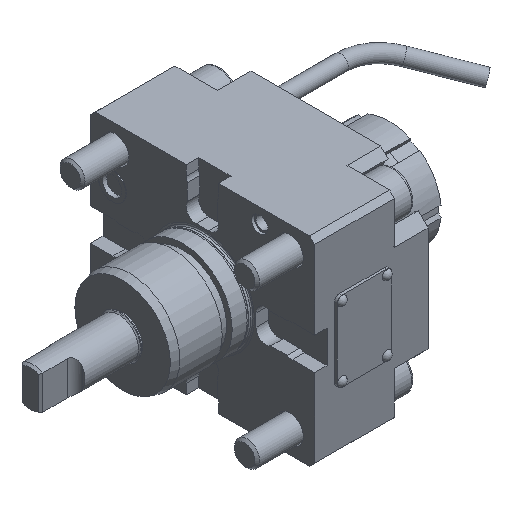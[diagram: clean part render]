
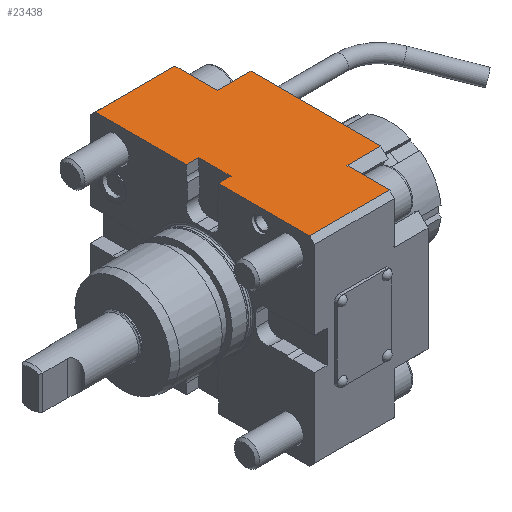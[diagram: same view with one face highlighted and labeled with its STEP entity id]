
A CAD part, isometric view. The second image highlights one B-rep face of the part: STEP entity #23438.
In plain terms, the highlighted planar face has unit normal (0, 0, 1).
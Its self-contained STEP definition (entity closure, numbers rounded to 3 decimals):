
#10072=VECTOR('',#16279,1.);
#10084=VECTOR('',#16307,1.);
#10085=VECTOR('',#16308,1.);
#10086=VECTOR('',#16309,1.);
#10087=VECTOR('',#16310,1.);
#10088=VECTOR('',#16311,1.);
#10089=VECTOR('',#16312,1.);
#10090=VECTOR('',#16313,1.);
#10091=VECTOR('',#16314,1.);
#10092=VECTOR('',#16315,1.);
#10093=VECTOR('',#16316,1.);
#10094=VECTOR('',#16317,1.);
#10546=LINE('',#20398,#10072);
#10558=LINE('',#20436,#10084);
#10559=LINE('',#20438,#10085);
#10560=LINE('',#20440,#10086);
#10561=LINE('',#20442,#10087);
#10562=LINE('',#20444,#10088);
#10563=LINE('',#20446,#10089);
#10564=LINE('',#20448,#10090);
#10565=LINE('',#20450,#10091);
#10566=LINE('',#20452,#10092);
#10567=LINE('',#20454,#10093);
#10568=LINE('',#20455,#10094);
#11452=ORIENTED_EDGE('',*,*,#14010,.F.);
#11453=ORIENTED_EDGE('',*,*,#13991,.F.);
#11454=ORIENTED_EDGE('',*,*,#14011,.T.);
#11455=ORIENTED_EDGE('',*,*,#14012,.F.);
#11456=ORIENTED_EDGE('',*,*,#14013,.T.);
#11457=ORIENTED_EDGE('',*,*,#14014,.T.);
#11458=ORIENTED_EDGE('',*,*,#14015,.T.);
#11459=ORIENTED_EDGE('',*,*,#14016,.T.);
#11460=ORIENTED_EDGE('',*,*,#14017,.T.);
#11461=ORIENTED_EDGE('',*,*,#14018,.T.);
#11462=ORIENTED_EDGE('',*,*,#14019,.F.);
#11463=ORIENTED_EDGE('',*,*,#14020,.F.);
#13330=VERTEX_POINT('',#20396);
#13331=VERTEX_POINT('',#20397);
#13349=VERTEX_POINT('',#20435);
#13350=VERTEX_POINT('',#20437);
#13351=VERTEX_POINT('',#20439);
#13352=VERTEX_POINT('',#20441);
#13353=VERTEX_POINT('',#20443);
#13354=VERTEX_POINT('',#20445);
#13355=VERTEX_POINT('',#20447);
#13356=VERTEX_POINT('',#20449);
#13357=VERTEX_POINT('',#20451);
#13358=VERTEX_POINT('',#20453);
#13991=EDGE_CURVE('',#13330,#13331,#10546,.T.);
#14010=EDGE_CURVE('',#13331,#13349,#10558,.T.);
#14011=EDGE_CURVE('',#13330,#13350,#10559,.T.);
#14012=EDGE_CURVE('',#13351,#13350,#10560,.T.);
#14013=EDGE_CURVE('',#13351,#13352,#10561,.T.);
#14014=EDGE_CURVE('',#13352,#13353,#10562,.T.);
#14015=EDGE_CURVE('',#13353,#13354,#10563,.T.);
#14016=EDGE_CURVE('',#13354,#13355,#10564,.T.);
#14017=EDGE_CURVE('',#13355,#13356,#10565,.T.);
#14018=EDGE_CURVE('',#13356,#13357,#10566,.T.);
#14019=EDGE_CURVE('',#13358,#13357,#10567,.T.);
#14020=EDGE_CURVE('',#13349,#13358,#10568,.T.);
#14792=EDGE_LOOP('',(#11452,#11453,#11454,#11455,#11456,#11457,#11458,#11459,
#11460,#11461,#11462,#11463));
#15396=FACE_BOUND('',#14792,.T.);
#16279=DIRECTION('',(0.,-52.,0.));
#16305=DIRECTION('',(0.,0.,1.));
#16306=DIRECTION('',(0.,-1.,0.));
#16307=DIRECTION('',(-13.5,0.,0.));
#16308=DIRECTION('',(-13.5,0.,0.));
#16309=DIRECTION('',(0.,-17.,0.));
#16310=DIRECTION('',(-32.,0.,0.));
#16311=DIRECTION('',(0.,-36.5,0.));
#16312=DIRECTION('',(5.,0.,0.));
#16313=DIRECTION('',(0.,-13.,0.));
#16314=DIRECTION('',(-5.,0.,0.));
#16315=DIRECTION('',(0.,-36.5,0.));
#16316=DIRECTION('',(-32.,0.,0.));
#16317=DIRECTION('',(0.,-17.,0.));
#20396=CARTESIAN_POINT('',(45.5,26.,190.));
#20397=CARTESIAN_POINT('',(45.5,-26.,190.));
#20398=CARTESIAN_POINT('',(45.5,26.,190.));
#20434=CARTESIAN_POINT('',(45.5,43.,190.));
#20435=CARTESIAN_POINT('',(32.,-26.,190.));
#20436=CARTESIAN_POINT('',(45.5,-26.,190.));
#20437=CARTESIAN_POINT('',(32.,26.,190.));
#20438=CARTESIAN_POINT('',(45.5,26.,190.));
#20439=CARTESIAN_POINT('',(32.,43.,190.));
#20440=CARTESIAN_POINT('',(32.,43.,190.));
#20441=CARTESIAN_POINT('',(0.,43.,190.));
#20442=CARTESIAN_POINT('',(32.,43.,190.));
#20443=CARTESIAN_POINT('',(0.,6.5,190.));
#20444=CARTESIAN_POINT('',(0.,43.,190.));
#20445=CARTESIAN_POINT('',(5.,6.5,190.));
#20446=CARTESIAN_POINT('',(0.,6.5,190.));
#20447=CARTESIAN_POINT('',(5.,-6.5,190.));
#20448=CARTESIAN_POINT('',(5.,6.5,190.));
#20449=CARTESIAN_POINT('',(0.,-6.5,190.));
#20450=CARTESIAN_POINT('',(5.,-6.5,190.));
#20451=CARTESIAN_POINT('',(0.,-43.,190.));
#20452=CARTESIAN_POINT('',(0.,-6.5,190.));
#20453=CARTESIAN_POINT('',(32.,-43.,190.));
#20454=CARTESIAN_POINT('',(32.,-43.,190.));
#20455=CARTESIAN_POINT('',(32.,-26.,190.));
#22508=AXIS2_PLACEMENT_3D('',#20434,#16305,#16306);
#23182=PLANE('',#22508);
#23438=ADVANCED_FACE('',(#15396),#23182,.T.);
